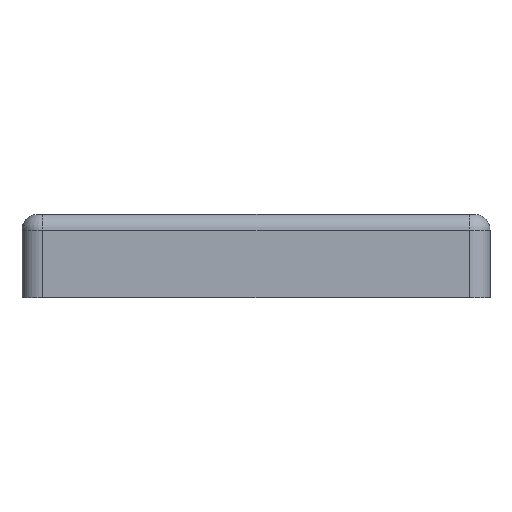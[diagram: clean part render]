
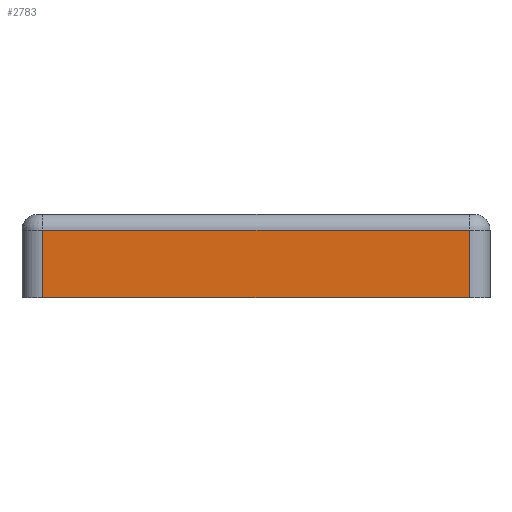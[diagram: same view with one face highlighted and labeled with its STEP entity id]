
A CAD part, left-side view. The second image highlights one B-rep face of the part: STEP entity #2783.
In plain terms, the highlighted planar face has unit normal (-1, 0, 0).
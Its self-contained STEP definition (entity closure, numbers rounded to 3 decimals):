
#119 = AXIS2_PLACEMENT_3D ( 'NONE', #5202, #4631, #7797 ) ;
#497 = CARTESIAN_POINT ( 'NONE',  ( -45., -41., 16. ) ) ;
#1036 = ORIENTED_EDGE ( 'NONE', *, *, #8141, .F. ) ;
#1078 = CARTESIAN_POINT ( 'NONE',  ( -45., -41., 13. ) ) ;
#1116 = LINE ( 'NONE', #497, #1830 ) ;
#1210 = CARTESIAN_POINT ( 'NONE',  ( -45., 45., 0. ) ) ;
#1590 = LINE ( 'NONE', #3534, #1796 ) ;
#1704 = CARTESIAN_POINT ( 'NONE',  ( -45., 41., 0. ) ) ;
#1796 = VECTOR ( 'NONE', #7408, 1000. ) ;
#1812 = DIRECTION ( 'NONE',  ( 0., 0., -1. ) ) ;
#1830 = VECTOR ( 'NONE', #1812, 1000. ) ;
#1879 = VERTEX_POINT ( 'NONE', #1078 ) ;
#1956 = LINE ( 'NONE', #1210, #6661 ) ;
#2099 = LINE ( 'NONE', #6623, #3021 ) ;
#2783 = ADVANCED_FACE ( 'NONE', ( #6582 ), #5995, .F. ) ;
#2793 = EDGE_CURVE ( 'NONE', #3519, #1879, #2099, .T. ) ;
#2799 = ORIENTED_EDGE ( 'NONE', *, *, #2793, .F. ) ;
#2967 = CARTESIAN_POINT ( 'NONE',  ( -45., 41., 13. ) ) ;
#2996 = EDGE_LOOP ( 'NONE', ( #1036, #7510, #4289, #2799 ) ) ;
#3021 = VECTOR ( 'NONE', #7294, 1000. ) ;
#3242 = DIRECTION ( 'NONE',  ( 0., 1., 0. ) ) ;
#3250 = EDGE_CURVE ( 'NONE', #1879, #3646, #1116, .T. ) ;
#3519 = VERTEX_POINT ( 'NONE', #2967 ) ;
#3534 = CARTESIAN_POINT ( 'NONE',  ( -45., 41., 16. ) ) ;
#3646 = VERTEX_POINT ( 'NONE', #5122 ) ;
#4289 = ORIENTED_EDGE ( 'NONE', *, *, #3250, .F. ) ;
#4631 = DIRECTION ( 'NONE',  ( 1., 0., 0. ) ) ;
#5122 = CARTESIAN_POINT ( 'NONE',  ( -45., -41., 0. ) ) ;
#5202 = CARTESIAN_POINT ( 'NONE',  ( -45., 45., 16. ) ) ;
#5995 = PLANE ( 'NONE',  #119 ) ;
#6154 = EDGE_CURVE ( 'NONE', #3646, #8142, #1956, .T. ) ;
#6582 = FACE_OUTER_BOUND ( 'NONE', #2996, .T. ) ;
#6623 = CARTESIAN_POINT ( 'NONE',  ( -45., 45., 13. ) ) ;
#6661 = VECTOR ( 'NONE', #3242, 1000. ) ;
#7294 = DIRECTION ( 'NONE',  ( 0., -1., 0. ) ) ;
#7408 = DIRECTION ( 'NONE',  ( 0., 0., 1. ) ) ;
#7510 = ORIENTED_EDGE ( 'NONE', *, *, #6154, .F. ) ;
#7797 = DIRECTION ( 'NONE',  ( 0., 0., -1. ) ) ;
#8141 = EDGE_CURVE ( 'NONE', #8142, #3519, #1590, .T. ) ;
#8142 = VERTEX_POINT ( 'NONE', #1704 ) ;
